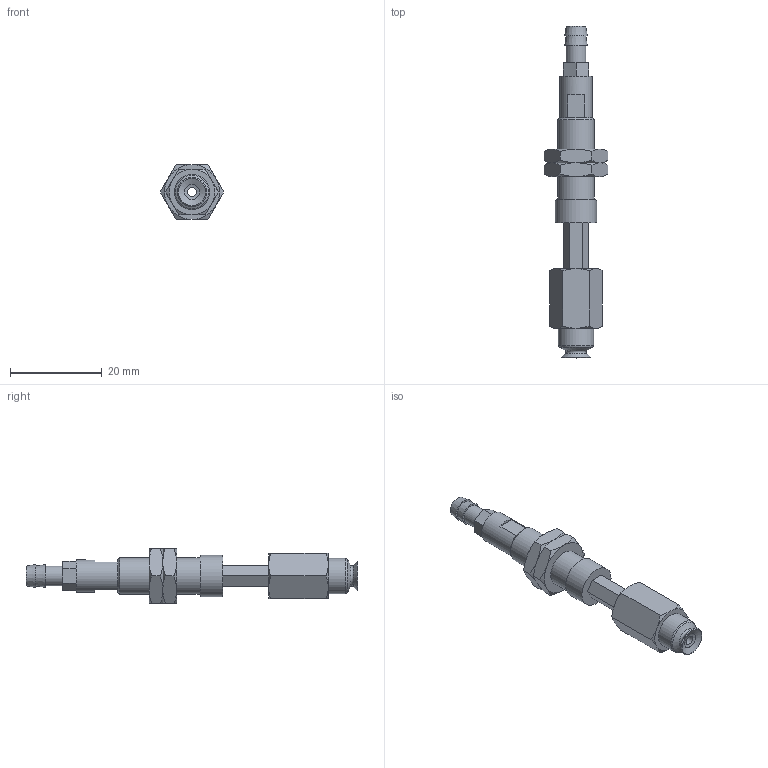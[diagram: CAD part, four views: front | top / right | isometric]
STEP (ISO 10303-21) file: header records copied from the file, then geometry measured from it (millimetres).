
FILE_DESCRIPTION(('STEP AP203'),'1');
FILE_NAME('-T.stp','2025-08-27T02:57:21',(' '),(' '),'Spatial InterOp 3D',' ',' ');
FILE_SCHEMA(('CONFIG_CONTROL_DESIGN'));
Length unit declared in the file: millimetre
Products named in the file (7): BNABPFTH-6A-10-※-T; ADAPTER; NAPATH-10A-10--M; Nut-6A-10-h; NAPFTH-6A-10-FBODY; BPFG-6A-※; T
Assembly tree (7 placements, depth 2):
  BNABPFTH-6A-10-※-T
    ADAPTER
    NAPATH-10A-10--M
    Nut-6A-10-h  x2
    NAPFTH-6A-10-FBODY
    BPFG-6A-※
    T
Bounding box: 13.86 x 72.5 x 12 mm (x, y, z)
Volume: 3540.6 mm3; surface area: 4384.2 mm2
Topology: 7 solids, 7 shells, 140 faces, 298 edges, 182 vertices
Faces by surface type: plane 64, cone 49, cylinder 17, torus 9, bspline 1
Full cylindrical faces by diameter (mm): 2 x3, 3 x1, 4 x2, 4.134 x1, 4.3 x1, 5 x1, 6 x2, 7 x1, 7.188 x2, 7.7 x1, 8 x1, 9 x1
Entity records: 3465 total; most frequent: CARTESIAN_POINT 792, DIRECTION 486, ORIENTED_EDGE 410, AXIS2_PLACEMENT_3D 205, EDGE_CURVE 205, EDGE_LOOP 176, VERTEX_POINT 147, FACE_OUTER_BOUND 143
